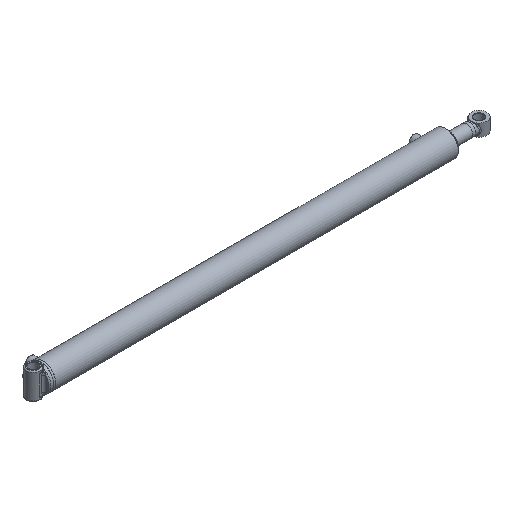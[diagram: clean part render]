
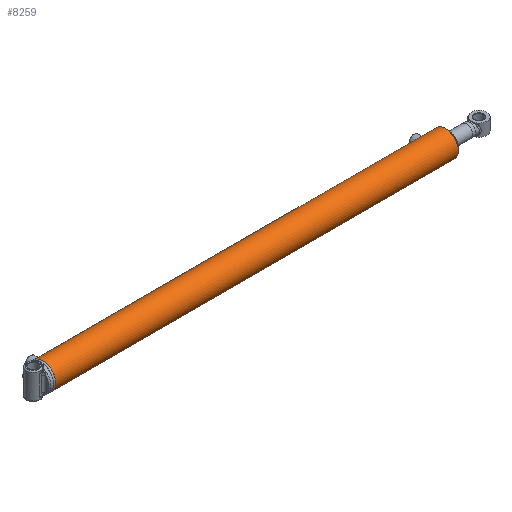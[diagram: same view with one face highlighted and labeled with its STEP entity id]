
A CAD part, isometric view. The second image highlights one B-rep face of the part: STEP entity #8259.
In plain terms, the highlighted cylindrical face has radius 36.513 mm (diameter 73.025 mm), a full revolution.
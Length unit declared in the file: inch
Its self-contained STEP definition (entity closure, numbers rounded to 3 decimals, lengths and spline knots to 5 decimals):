
#713=B_SPLINE_CURVE_WITH_KNOTS('',3,(#12235,#12236,#12237,#12238,#12239,
#12240,#12241,#12242,#12243,#12244),.UNSPECIFIED.,.F.,.F.,(4,2,2,2,4),(0.,
0.17962,0.35924,0.53885,0.71847),
 .UNSPECIFIED.);
#714=B_SPLINE_CURVE_WITH_KNOTS('',3,(#12245,#12246,#12247,#12248,#12249,
#12250,#12251,#12252,#12253,#12254,#12255,#12256,#12257,#12258,#12259,#12260,
#12261,#12262,#12263,#12264,#12265,#12266,#12267,#12268,#12269,#12270),
 .UNSPECIFIED.,.F.,.F.,(4,2,2,2,2,2,2,2,2,2,2,2,4),(0.71847,0.89808,
1.0777,1.25732,1.43694,1.61655,1.79617,
1.97579,2.1554,2.33502,2.51464,2.69425,
2.87387),.UNSPECIFIED.);
#715=B_SPLINE_CURVE_WITH_KNOTS('',3,(#12275,#12276,#12277,#12278,#12279,
#12280,#12281,#12282,#12283,#12284),.UNSPECIFIED.,.F.,.F.,(4,2,2,2,4),(0.,
0.17962,0.35924,0.53885,0.71847),
 .UNSPECIFIED.);
#716=B_SPLINE_CURVE_WITH_KNOTS('',3,(#12285,#12286,#12287,#12288,#12289,
#12290,#12291,#12292,#12293,#12294,#12295,#12296,#12297,#12298,#12299,#12300,
#12301,#12302,#12303,#12304,#12305,#12306,#12307,#12308,#12309,#12310),
 .UNSPECIFIED.,.F.,.F.,(4,2,2,2,2,2,2,2,2,2,2,2,4),(0.71847,0.89808,
1.0777,1.25732,1.43694,1.61655,1.79617,
1.97579,2.1554,2.33502,2.51464,2.69425,
2.87387),.UNSPECIFIED.);
#1063=FACE_BOUND('',#2630,.T.);
#1064=FACE_BOUND('',#2631,.T.);
#1342=LINE('',#12338,#1685);
#1685=VECTOR('',#10083,1.4375);
#2025=CYLINDRICAL_SURFACE('',#9126,1.4375);
#2115=FACE_OUTER_BOUND('',#2629,.T.);
#2629=EDGE_LOOP('',(#5794,#5795,#5796,#5797,#5798,#5799));
#2630=EDGE_LOOP('',(#5800,#5801));
#2631=EDGE_LOOP('',(#5802,#5803));
#3228=CIRCLE('',#9123,1.4375);
#3230=CIRCLE('',#9125,1.4375);
#3231=CIRCLE('',#9127,1.4375);
#3232=CIRCLE('',#9128,1.4375);
#3701=VERTEX_POINT('',#12232);
#3702=VERTEX_POINT('',#12234);
#3703=VERTEX_POINT('',#12272);
#3704=VERTEX_POINT('',#12274);
#3711=VERTEX_POINT('',#12331);
#3712=VERTEX_POINT('',#12332);
#3713=VERTEX_POINT('',#12337);
#3714=VERTEX_POINT('',#12339);
#4507=EDGE_CURVE('',#3702,#3701,#713,.T.);
#4508=EDGE_CURVE('',#3701,#3702,#714,.T.);
#4510=EDGE_CURVE('',#3704,#3703,#715,.T.);
#4511=EDGE_CURVE('',#3703,#3704,#716,.T.);
#4521=EDGE_CURVE('',#3711,#3712,#3228,.T.);
#4523=EDGE_CURVE('',#3712,#3711,#3230,.T.);
#4524=EDGE_CURVE('',#3711,#3713,#1342,.T.);
#4525=EDGE_CURVE('',#3714,#3713,#3231,.T.);
#4526=EDGE_CURVE('',#3713,#3714,#3232,.T.);
#5794=ORIENTED_EDGE('',*,*,#4521,.F.);
#5795=ORIENTED_EDGE('',*,*,#4524,.T.);
#5796=ORIENTED_EDGE('',*,*,#4525,.F.);
#5797=ORIENTED_EDGE('',*,*,#4526,.F.);
#5798=ORIENTED_EDGE('',*,*,#4524,.F.);
#5799=ORIENTED_EDGE('',*,*,#4523,.F.);
#5800=ORIENTED_EDGE('',*,*,#4507,.T.);
#5801=ORIENTED_EDGE('',*,*,#4508,.T.);
#5802=ORIENTED_EDGE('',*,*,#4510,.T.);
#5803=ORIENTED_EDGE('',*,*,#4511,.T.);
#8259=ADVANCED_FACE('',(#2115,#1063,#1064),#2025,.T.);
#9123=AXIS2_PLACEMENT_3D('',#12333,#10075,#10076);
#9125=AXIS2_PLACEMENT_3D('',#12335,#10079,#10080);
#9126=AXIS2_PLACEMENT_3D('',#12336,#10081,#10082);
#9127=AXIS2_PLACEMENT_3D('',#12340,#10084,#10085);
#9128=AXIS2_PLACEMENT_3D('',#12341,#10086,#10087);
#10075=DIRECTION('center_axis',(1.,0.,0.));
#10076=DIRECTION('ref_axis',(0.,-1.,0.));
#10079=DIRECTION('center_axis',(1.,0.,0.));
#10080=DIRECTION('ref_axis',(0.,-1.,0.));
#10081=DIRECTION('center_axis',(1.,0.,0.));
#10082=DIRECTION('ref_axis',(0.,-1.,0.));
#10083=DIRECTION('',(-1.,0.,0.));
#10084=DIRECTION('center_axis',(-1.,0.,0.));
#10085=DIRECTION('ref_axis',(0.,-1.,0.));
#10086=DIRECTION('center_axis',(-1.,0.,0.));
#10087=DIRECTION('ref_axis',(0.,-1.,0.));
#12232=CARTESIAN_POINT('',(0.5925,0.,1.4375));
#12234=CARTESIAN_POINT('',(0.78,-0.1875,1.42522));
#12235=CARTESIAN_POINT('Ctrl Pts',(0.78,-0.1875,1.42522));
#12236=CARTESIAN_POINT('Ctrl Pts',(0.75643,-0.1875,1.42522));
#12237=CARTESIAN_POINT('Ctrl Pts',(0.7313,-0.18278,
1.42586));
#12238=CARTESIAN_POINT('Ctrl Pts',(0.68512,-0.16364,
1.42819));
#12239=CARTESIAN_POINT('Ctrl Pts',(0.66405,-0.14921,
1.42983));
#12240=CARTESIAN_POINT('Ctrl Pts',(0.63079,-0.11595,
1.43291));
#12241=CARTESIAN_POINT('Ctrl Pts',(0.61636,-0.09488,
1.43455));
#12242=CARTESIAN_POINT('Ctrl Pts',(0.59722,-0.0487,
1.43686));
#12243=CARTESIAN_POINT('Ctrl Pts',(0.5925,-0.02357,1.4375));
#12244=CARTESIAN_POINT('Ctrl Pts',(0.5925,0.,1.4375));
#12245=CARTESIAN_POINT('Ctrl Pts',(0.5925,0.,1.4375));
#12246=CARTESIAN_POINT('Ctrl Pts',(0.5925,0.02357,1.4375));
#12247=CARTESIAN_POINT('Ctrl Pts',(0.59722,0.0487,
1.43686));
#12248=CARTESIAN_POINT('Ctrl Pts',(0.61636,0.09488,
1.43455));
#12249=CARTESIAN_POINT('Ctrl Pts',(0.63079,0.11595,
1.43291));
#12250=CARTESIAN_POINT('Ctrl Pts',(0.66405,0.14921,
1.42983));
#12251=CARTESIAN_POINT('Ctrl Pts',(0.68512,0.16364,
1.42819));
#12252=CARTESIAN_POINT('Ctrl Pts',(0.7313,0.18278,
1.42586));
#12253=CARTESIAN_POINT('Ctrl Pts',(0.75643,0.1875,1.42522));
#12254=CARTESIAN_POINT('Ctrl Pts',(0.80357,0.1875,1.42522));
#12255=CARTESIAN_POINT('Ctrl Pts',(0.8287,0.18278,
1.42586));
#12256=CARTESIAN_POINT('Ctrl Pts',(0.87488,0.16364,
1.42819));
#12257=CARTESIAN_POINT('Ctrl Pts',(0.89595,0.14921,
1.42983));
#12258=CARTESIAN_POINT('Ctrl Pts',(0.92921,0.11595,
1.43291));
#12259=CARTESIAN_POINT('Ctrl Pts',(0.94364,0.09488,
1.43455));
#12260=CARTESIAN_POINT('Ctrl Pts',(0.96278,0.0487,
1.43686));
#12261=CARTESIAN_POINT('Ctrl Pts',(0.9675,0.02357,1.4375));
#12262=CARTESIAN_POINT('Ctrl Pts',(0.9675,-0.02357,1.4375));
#12263=CARTESIAN_POINT('Ctrl Pts',(0.96278,-0.0487,
1.43686));
#12264=CARTESIAN_POINT('Ctrl Pts',(0.94364,-0.09488,
1.43455));
#12265=CARTESIAN_POINT('Ctrl Pts',(0.92921,-0.11595,
1.43291));
#12266=CARTESIAN_POINT('Ctrl Pts',(0.89595,-0.14921,
1.42983));
#12267=CARTESIAN_POINT('Ctrl Pts',(0.87488,-0.16364,
1.42819));
#12268=CARTESIAN_POINT('Ctrl Pts',(0.8287,-0.18278,
1.42586));
#12269=CARTESIAN_POINT('Ctrl Pts',(0.80357,-0.1875,1.42522));
#12270=CARTESIAN_POINT('Ctrl Pts',(0.78,-0.1875,1.42522));
#12272=CARTESIAN_POINT('',(43.6095,0.,1.4375));
#12274=CARTESIAN_POINT('',(43.797,-0.1875,1.42522));
#12275=CARTESIAN_POINT('Ctrl Pts',(43.797,-0.1875,1.42522));
#12276=CARTESIAN_POINT('Ctrl Pts',(43.77343,-0.1875,
1.42522));
#12277=CARTESIAN_POINT('Ctrl Pts',(43.7483,-0.18278,
1.42586));
#12278=CARTESIAN_POINT('Ctrl Pts',(43.70212,-0.16364,
1.42819));
#12279=CARTESIAN_POINT('Ctrl Pts',(43.68105,-0.14921,
1.42983));
#12280=CARTESIAN_POINT('Ctrl Pts',(43.64779,-0.11595,1.43291));
#12281=CARTESIAN_POINT('Ctrl Pts',(43.63336,-0.09488,
1.43455));
#12282=CARTESIAN_POINT('Ctrl Pts',(43.61422,-0.0487,
1.43686));
#12283=CARTESIAN_POINT('Ctrl Pts',(43.6095,-0.02357,1.4375));
#12284=CARTESIAN_POINT('Ctrl Pts',(43.6095,0.,1.4375));
#12285=CARTESIAN_POINT('Ctrl Pts',(43.6095,0.,1.4375));
#12286=CARTESIAN_POINT('Ctrl Pts',(43.6095,0.02357,1.4375));
#12287=CARTESIAN_POINT('Ctrl Pts',(43.61422,0.0487,
1.43686));
#12288=CARTESIAN_POINT('Ctrl Pts',(43.63336,0.09488,
1.43455));
#12289=CARTESIAN_POINT('Ctrl Pts',(43.64779,0.11595,1.43291));
#12290=CARTESIAN_POINT('Ctrl Pts',(43.68105,0.14921,1.42983));
#12291=CARTESIAN_POINT('Ctrl Pts',(43.70212,0.16364,1.42819));
#12292=CARTESIAN_POINT('Ctrl Pts',(43.7483,0.18278,1.42586));
#12293=CARTESIAN_POINT('Ctrl Pts',(43.77343,0.1875,1.42522));
#12294=CARTESIAN_POINT('Ctrl Pts',(43.82057,0.1875,1.42522));
#12295=CARTESIAN_POINT('Ctrl Pts',(43.8457,0.18278,1.42586));
#12296=CARTESIAN_POINT('Ctrl Pts',(43.89188,0.16364,1.42819));
#12297=CARTESIAN_POINT('Ctrl Pts',(43.91295,0.14921,1.42983));
#12298=CARTESIAN_POINT('Ctrl Pts',(43.94621,0.11595,1.43291));
#12299=CARTESIAN_POINT('Ctrl Pts',(43.96064,0.09488,
1.43455));
#12300=CARTESIAN_POINT('Ctrl Pts',(43.97978,0.0487,1.43686));
#12301=CARTESIAN_POINT('Ctrl Pts',(43.9845,0.02357,1.4375));
#12302=CARTESIAN_POINT('Ctrl Pts',(43.9845,-0.02357,1.4375));
#12303=CARTESIAN_POINT('Ctrl Pts',(43.97978,-0.0487,
1.43686));
#12304=CARTESIAN_POINT('Ctrl Pts',(43.96064,-0.09488,
1.43455));
#12305=CARTESIAN_POINT('Ctrl Pts',(43.94621,-0.11595,1.43291));
#12306=CARTESIAN_POINT('Ctrl Pts',(43.91295,-0.14921,
1.42983));
#12307=CARTESIAN_POINT('Ctrl Pts',(43.89188,-0.16364,
1.42819));
#12308=CARTESIAN_POINT('Ctrl Pts',(43.8457,-0.18278,
1.42586));
#12309=CARTESIAN_POINT('Ctrl Pts',(43.82057,-0.1875,
1.42522));
#12310=CARTESIAN_POINT('Ctrl Pts',(43.797,-0.1875,1.42522));
#12331=CARTESIAN_POINT('',(45.227,1.4375,0.));
#12332=CARTESIAN_POINT('',(45.227,0.,-1.4375));
#12333=CARTESIAN_POINT('Origin',(45.227,0.,0.));
#12335=CARTESIAN_POINT('Origin',(45.227,0.,0.));
#12336=CARTESIAN_POINT('Origin',(0.,0.,0.));
#12337=CARTESIAN_POINT('',(0.09382,1.4375,0.));
#12338=CARTESIAN_POINT('',(0.,1.4375,0.));
#12339=CARTESIAN_POINT('',(0.09382,0.,1.4375));
#12340=CARTESIAN_POINT('Origin',(0.09382,0.,0.));
#12341=CARTESIAN_POINT('Origin',(0.09382,0.,0.));
